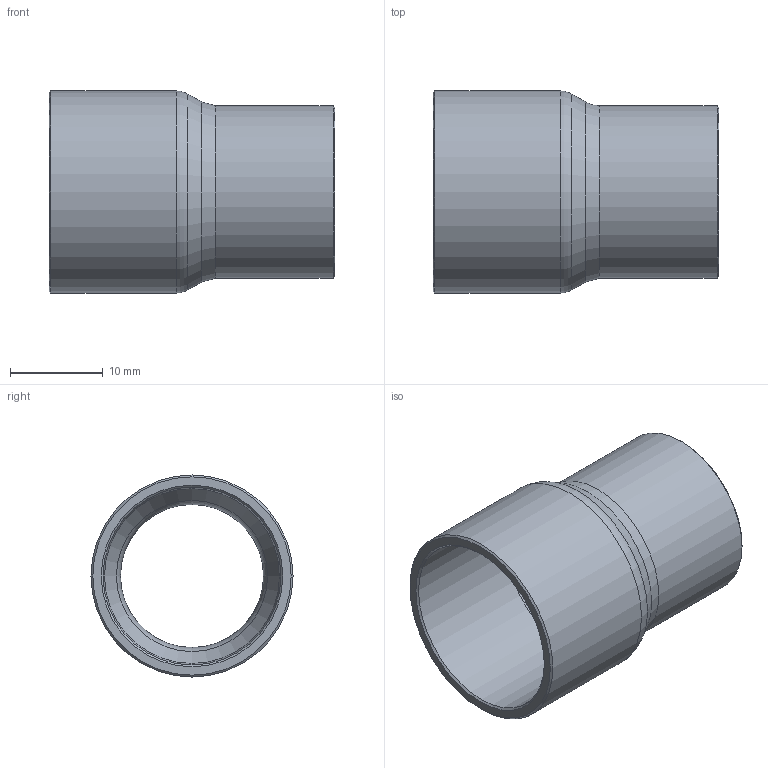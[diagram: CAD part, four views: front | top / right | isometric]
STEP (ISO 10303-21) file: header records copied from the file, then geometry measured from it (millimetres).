
FILE_DESCRIPTION((''),'2;1');
FILE_NAME('G:\SANHA-Ternat\Technik\Management\Bouwmaten + markeringen\z-maattekeningen 3D\29000s\292403458_3d.stp','2017-08-04T10:10:00',('vdvijverd'),(''),'Autodesk Inventor 2009','Autodesk Inventor 2009','');
FILE_SCHEMA(('AUTOMOTIVE_DESIGN { 1 0 10303 214 1 1 1 1 }'));
Length unit declared in the file: millimetre
Products named in the file (1): 292403458_3d
Bounding box: 30.8 x 21.77 x 21.77 mm (x, y, z)
Volume: 2461.7 mm3; surface area: 3826.9 mm2
Topology: 1 solids, 1 shells, 17 faces, 32 edges, 17 vertices
Faces by surface type: cone 6, cylinder 4, bspline 3, plane 2, torus 2
Full cylindrical faces by diameter (mm): 15.995 x1, 18.6 x1, 19.17 x1, 21.77 x1
Entity records: 494 total; most frequent: CARTESIAN_POINT 184, DIRECTION 64, ORIENTED_EDGE 34, EDGE_LOOP 34, AXIS2_PLACEMENT_3D 32, VERTEX_POINT 17, CIRCLE 17, EDGE_CURVE 17
